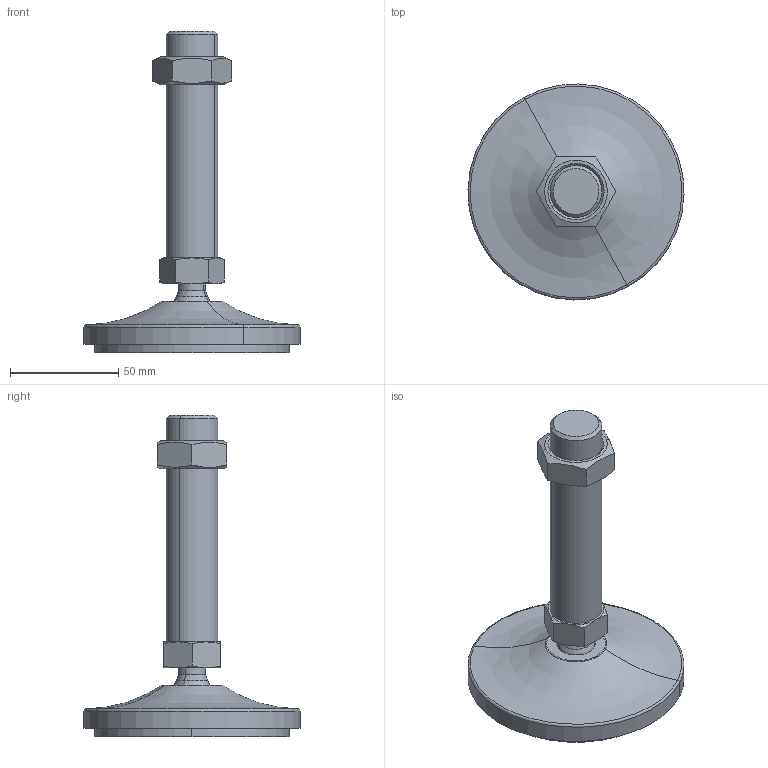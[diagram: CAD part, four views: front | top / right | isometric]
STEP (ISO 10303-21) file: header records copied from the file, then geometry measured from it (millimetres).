
FILE_DESCRIPTION(('CATIA V5 STEP Exchange'),'2;1');
FILE_NAME('C:\Users\ALI OZGUN\Desktop\alhan\saplama2\560102415AV.stp','2017-09-21T10:31:22+00:00',('none'),('none'),'CATIA Version 5 Release 21 GA (IN-10)','CATIA V5 STEP AP203','none');
FILE_SCHEMA(('CONFIG_CONTROL_DESIGN'));
Length unit declared in the file: millimetre
Products named in the file (1): 560102415AV
Bounding box: 99.97 x 99.97 x 149 mm (x, y, z)
Volume: 181357.4 mm3; surface area: 49719.3 mm2
Topology: 4 solids, 4 shells, 76 faces, 166 edges, 99 vertices
Faces by surface type: cone 28, plane 22, cylinder 16, torus 4, revolution 4, sphere 2
Entity records: 2200 total; most frequent: CARTESIAN_POINT 736, ORIENTED_EDGE 328, DIRECTION 203, EDGE_CURVE 164, AXIS2_PLACEMENT_3D 112, VERTEX_POINT 99, EDGE_LOOP 83, ADVANCED_FACE 76
